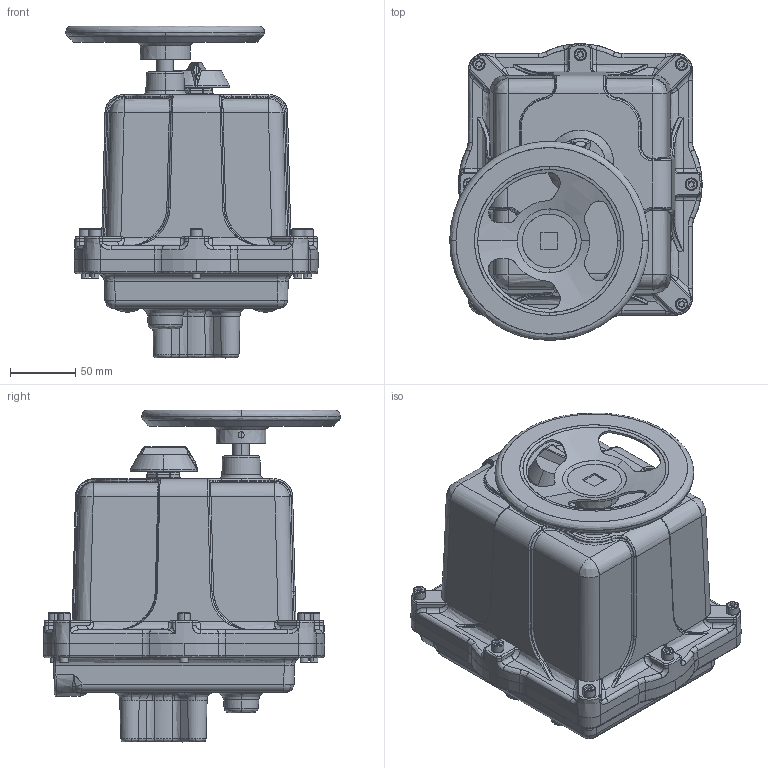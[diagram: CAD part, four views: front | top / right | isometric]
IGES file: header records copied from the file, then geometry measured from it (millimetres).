
Start section: SolidWorks IGES file using analytic representation for surfaces
Global section: file name: C:\SWPDM\PDM_VAULT\shrewsbury\cad\valvcon\drawings\VCD00076.IGS; native system: SolidWorks 2020; preprocessor: SolidWorks 2020; author: sbulovejmi; date: 230215.094730; units: inch
Bounding box: 193.46 x 227.67 x 254.39 mm (x, y, z)
Surface area: 373394.6 mm2 (no closed solid volume)
Topology: 0 solids, 0 shells, 1871 faces, 21526 edges, 21445 vertices
Faces by surface type: bspline 1206, revolution 665
